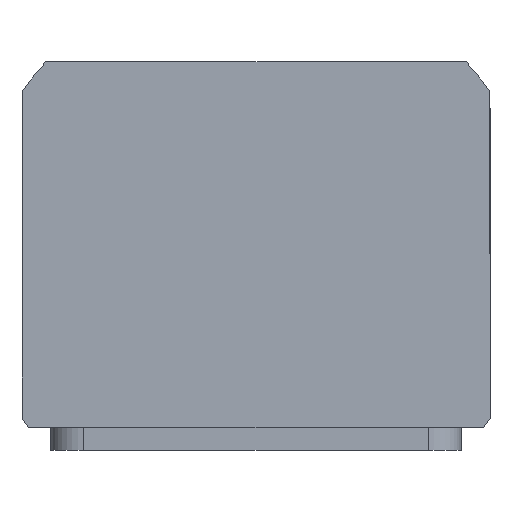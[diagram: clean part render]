
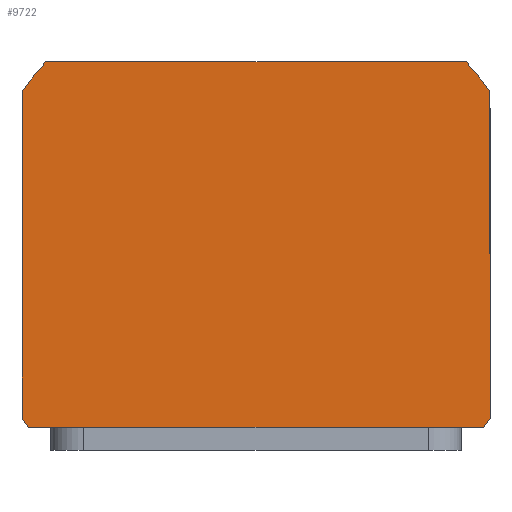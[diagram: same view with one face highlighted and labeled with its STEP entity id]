
A CAD part, top view. The second image highlights one B-rep face of the part: STEP entity #9722.
In plain terms, the highlighted planar face has unit normal (0, 0, 1) as drawn and (0, 0, -1) by its records, which use the part's own axes.
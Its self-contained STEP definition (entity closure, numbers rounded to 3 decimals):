
#212 = CARTESIAN_POINT ( 'NONE',  ( -57., -44.5, 0. ) ) ;
#488 = DIRECTION ( 'NONE',  ( 0., 0., 1. ) ) ;
#929 = LINE ( 'NONE', #212, #11368 ) ;
#966 = AXIS2_PLACEMENT_3D ( 'NONE', #10759, #2268, #12171 ) ;
#1030 = VERTEX_POINT ( 'NONE', #10186 ) ;
#1394 = VECTOR ( 'NONE', #16828, 1000. ) ;
#1829 = EDGE_CURVE ( 'NONE', #16018, #9921, #2836, .T. ) ;
#2145 = CIRCLE ( 'NONE', #966, 69.5 ) ;
#2268 = DIRECTION ( 'NONE',  ( 0., 0., 1. ) ) ;
#2455 = DIRECTION ( 'NONE',  ( 0., 0., 1. ) ) ;
#2658 = EDGE_CURVE ( 'NONE', #14694, #16018, #2145, .T. ) ;
#2666 = DIRECTION ( 'NONE',  ( 0., -1., 0. ) ) ;
#2757 = CARTESIAN_POINT ( 'NONE',  ( 57., -37.255, 0. ) ) ;
#2836 = LINE ( 'NONE', #16930, #16967 ) ;
#2941 = VECTOR ( 'NONE', #2666, 1000. ) ;
#3378 = ORIENTED_EDGE ( 'NONE', *, *, #15229, .F. ) ;
#3379 = LINE ( 'NONE', #8453, #2941 ) ;
#3571 = ORIENTED_EDGE ( 'NONE', *, *, #16619, .F. ) ;
#3597 = CARTESIAN_POINT ( 'NONE',  ( 0., 2.51, 0. ) ) ;
#4200 = CARTESIAN_POINT ( 'NONE',  ( -57., 42.275, 0. ) ) ;
#4271 = ORIENTED_EDGE ( 'NONE', *, *, #11101, .F. ) ;
#4482 = ORIENTED_EDGE ( 'NONE', *, *, #1829, .F. ) ;
#5027 = DIRECTION ( 'NONE',  ( 1., 0., 0. ) ) ;
#5701 = AXIS2_PLACEMENT_3D ( 'NONE', #9527, #2455, #12369 ) ;
#6918 = CARTESIAN_POINT ( 'NONE',  ( 0., 2.51, 0. ) ) ;
#7170 = VERTEX_POINT ( 'NONE', #7188 ) ;
#7188 = CARTESIAN_POINT ( 'NONE',  ( -57., -37.255, 0. ) ) ;
#7797 = CIRCLE ( 'NONE', #11746, 69.5 ) ;
#7900 = CIRCLE ( 'NONE', #9492, 69.5 ) ;
#8350 = DIRECTION ( 'NONE',  ( 1., 0., 0. ) ) ;
#8365 = FACE_OUTER_BOUND ( 'NONE', #14417, .T. ) ;
#8394 = CARTESIAN_POINT ( 'NONE',  ( -57., 44.5, 0. ) ) ;
#8453 = CARTESIAN_POINT ( 'NONE',  ( -57., 44.5, 0. ) ) ;
#8499 = DIRECTION ( 'NONE',  ( 0., 1., 0. ) ) ;
#8586 = CARTESIAN_POINT ( 'NONE',  ( -51.189, -44.5, 0. ) ) ;
#8702 = ORIENTED_EDGE ( 'NONE', *, *, #2658, .F. ) ;
#8992 = CARTESIAN_POINT ( 'NONE',  ( 0., 2.51, 0. ) ) ;
#9144 = ORIENTED_EDGE ( 'NONE', *, *, #14057, .F. ) ;
#9492 = AXIS2_PLACEMENT_3D ( 'NONE', #6918, #16793, #8350 ) ;
#9527 = CARTESIAN_POINT ( 'NONE',  ( 0., 0., 0. ) ) ;
#9722 = ADVANCED_FACE ( 'NONE', ( #8365 ), #17939, .F. ) ;
#9915 = EDGE_CURVE ( 'NONE', #7170, #14764, #7900, .T. ) ;
#9921 = VERTEX_POINT ( 'NONE', #15392 ) ;
#10014 = VERTEX_POINT ( 'NONE', #4200 ) ;
#10036 = ORIENTED_EDGE ( 'NONE', *, *, #16154, .F. ) ;
#10136 = DIRECTION ( 'NONE',  ( 1., 0., 0. ) ) ;
#10186 = CARTESIAN_POINT ( 'NONE',  ( -55.382, 44.5, 0. ) ) ;
#10414 = DIRECTION ( 'NONE',  ( 1., 0., 0. ) ) ;
#10759 = CARTESIAN_POINT ( 'NONE',  ( 0., 2.51, 0. ) ) ;
#11101 = EDGE_CURVE ( 'NONE', #15910, #1030, #12699, .T. ) ;
#11200 = CARTESIAN_POINT ( 'NONE',  ( 51.189, -44.5, 0. ) ) ;
#11368 = VECTOR ( 'NONE', #10136, 1000. ) ;
#11746 = AXIS2_PLACEMENT_3D ( 'NONE', #3597, #13509, #5027 ) ;
#12009 = CIRCLE ( 'NONE', #12941, 69.5 ) ;
#12092 = CARTESIAN_POINT ( 'NONE',  ( 55.382, 44.5, 0. ) ) ;
#12171 = DIRECTION ( 'NONE',  ( 1., 0., 0. ) ) ;
#12369 = DIRECTION ( 'NONE',  ( 1., 0., 0. ) ) ;
#12699 = LINE ( 'NONE', #8394, #1394 ) ;
#12941 = AXIS2_PLACEMENT_3D ( 'NONE', #8992, #488, #10414 ) ;
#13509 = DIRECTION ( 'NONE',  ( 0., 0., 1. ) ) ;
#14057 = EDGE_CURVE ( 'NONE', #14764, #14694, #929, .T. ) ;
#14417 = EDGE_LOOP ( 'NONE', ( #3571, #4482, #8702, #9144, #17064, #10036, #3378, #4271 ) ) ;
#14694 = VERTEX_POINT ( 'NONE', #11200 ) ;
#14764 = VERTEX_POINT ( 'NONE', #8586 ) ;
#15229 = EDGE_CURVE ( 'NONE', #1030, #10014, #7797, .T. ) ;
#15392 = CARTESIAN_POINT ( 'NONE',  ( 57., 42.275, 0. ) ) ;
#15910 = VERTEX_POINT ( 'NONE', #12092 ) ;
#16018 = VERTEX_POINT ( 'NONE', #2757 ) ;
#16154 = EDGE_CURVE ( 'NONE', #10014, #7170, #3379, .T. ) ;
#16619 = EDGE_CURVE ( 'NONE', #9921, #15910, #12009, .T. ) ;
#16793 = DIRECTION ( 'NONE',  ( 0., 0., 1. ) ) ;
#16828 = DIRECTION ( 'NONE',  ( -1., 0., 0. ) ) ;
#16930 = CARTESIAN_POINT ( 'NONE',  ( 57., 44.5, 0. ) ) ;
#16967 = VECTOR ( 'NONE', #8499, 1000. ) ;
#17064 = ORIENTED_EDGE ( 'NONE', *, *, #9915, .F. ) ;
#17939 = PLANE ( 'NONE',  #5701 ) ;
